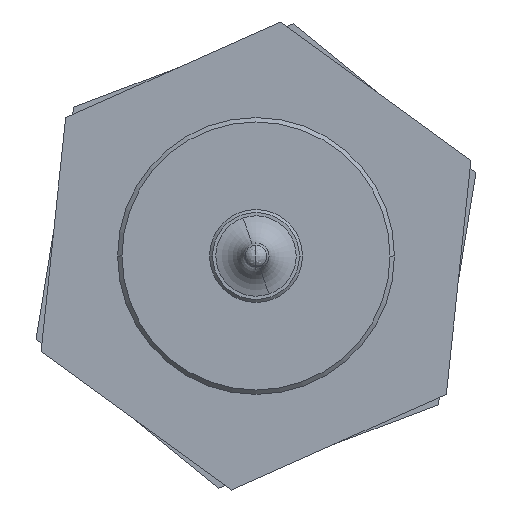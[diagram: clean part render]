
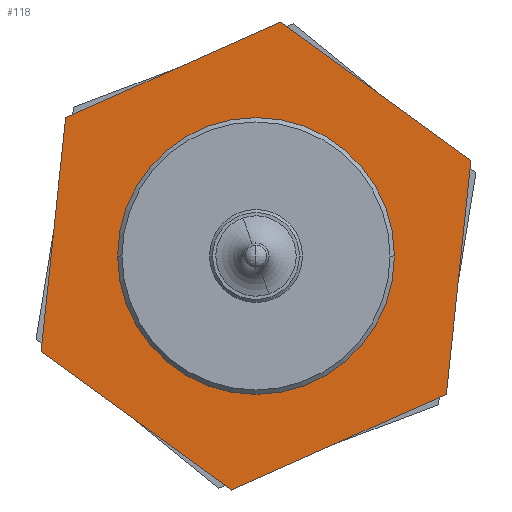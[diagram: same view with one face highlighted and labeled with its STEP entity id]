
A CAD part, left-side view. The second image highlights one B-rep face of the part: STEP entity #118.
In plain terms, the highlighted planar face has unit normal (-1, 0, 0).
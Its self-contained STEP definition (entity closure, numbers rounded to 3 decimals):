
#118=ADVANCED_FACE('',(#261,#262),#263,.F.);
#261=FACE_OUTER_BOUND('',#479,.T.);
#262=FACE_BOUND('',#480,.T.);
#263=PLANE('',#481);
#479=EDGE_LOOP('',(#914,#915,#916,#917,#918,#919));
#480=EDGE_LOOP('',(#920,#921));
#481=AXIS2_PLACEMENT_3D('',#922,#923,#924);
#914=ORIENTED_EDGE('',*,*,#1480,.T.);
#915=ORIENTED_EDGE('',*,*,#1481,.T.);
#916=ORIENTED_EDGE('',*,*,#1482,.T.);
#917=ORIENTED_EDGE('',*,*,#1483,.T.);
#918=ORIENTED_EDGE('',*,*,#1484,.T.);
#919=ORIENTED_EDGE('',*,*,#1485,.T.);
#920=ORIENTED_EDGE('',*,*,#1486,.F.);
#921=ORIENTED_EDGE('',*,*,#1364,.F.);
#922=CARTESIAN_POINT('',(170.8,0.,0.));
#923=DIRECTION('',(1.0,0.0,0.0));
#924=DIRECTION('',(0.0,1.0,0.0));
#1364=EDGE_CURVE('',#1627,#1629,#1630,.T.);
#1480=EDGE_CURVE('',#1837,#1838,#1839,.T.);
#1481=EDGE_CURVE('',#1838,#1840,#1841,.T.);
#1482=EDGE_CURVE('',#1840,#1842,#1843,.T.);
#1483=EDGE_CURVE('',#1842,#1844,#1845,.T.);
#1484=EDGE_CURVE('',#1844,#1846,#1847,.T.);
#1485=EDGE_CURVE('',#1846,#1837,#1848,.T.);
#1486=EDGE_CURVE('',#1629,#1627,#1849,.T.);
#1627=VERTEX_POINT('',#1987);
#1629=VERTEX_POINT('',#1990);
#1630=CIRCLE('',#1991,9.475);
#1837=VERTEX_POINT('',#2285);
#1838=VERTEX_POINT('',#2286);
#1839=LINE('',#2287,#2288);
#1840=VERTEX_POINT('',#2289);
#1841=LINE('',#2290,#2291);
#1842=VERTEX_POINT('',#2292);
#1843=LINE('',#2293,#2294);
#1844=VERTEX_POINT('',#2295);
#1845=LINE('',#2296,#2297);
#1846=VERTEX_POINT('',#2298);
#1847=LINE('',#2299,#2300);
#1848=LINE('',#2301,#2302);
#1849=CIRCLE('',#2303,9.475);
#1987=CARTESIAN_POINT('',(170.8,-9.475,0.));
#1990=CARTESIAN_POINT('',(170.8,9.475,0.));
#1991=AXIS2_PLACEMENT_3D('',#2482,#2483,#2484);
#2285=CARTESIAN_POINT('',(170.8,-1.683,16.02));
#2286=CARTESIAN_POINT('',(170.8,13.032,9.468));
#2287=CARTESIAN_POINT('',(170.8,-1.683,16.02));
#2288=VECTOR('',#2701,16.108);
#2289=CARTESIAN_POINT('',(170.8,14.715,-6.552));
#2290=CARTESIAN_POINT('',(170.8,13.032,9.468));
#2291=VECTOR('',#2702,16.108);
#2292=CARTESIAN_POINT('',(170.8,1.683,-16.02));
#2293=CARTESIAN_POINT('',(170.8,14.715,-6.552));
#2294=VECTOR('',#2703,16.108);
#2295=CARTESIAN_POINT('',(170.8,-13.032,-9.468));
#2296=CARTESIAN_POINT('',(170.8,1.683,-16.02));
#2297=VECTOR('',#2704,16.108);
#2298=CARTESIAN_POINT('',(170.8,-14.715,6.552));
#2299=CARTESIAN_POINT('',(170.8,-13.032,-9.468));
#2300=VECTOR('',#2705,16.108);
#2301=CARTESIAN_POINT('',(170.8,-14.715,6.552));
#2302=VECTOR('',#2706,16.108);
#2303=AXIS2_PLACEMENT_3D('',#2707,#2708,#2709);
#2482=CARTESIAN_POINT('',(170.8,0.,0.0));
#2483=DIRECTION('',(-1.0,0.0,0.0));
#2484=DIRECTION('',(0.0,-1.0,0.0));
#2701=DIRECTION('',(0.0,0.914,-0.407));
#2702=DIRECTION('',(0.0,0.105,-0.995));
#2703=DIRECTION('',(0.0,-0.809,-0.588));
#2704=DIRECTION('',(0.0,-0.914,0.407));
#2705=DIRECTION('',(0.0,-0.105,0.995));
#2706=DIRECTION('',(0.0,0.809,0.588));
#2707=CARTESIAN_POINT('',(170.8,0.,0.0));
#2708=DIRECTION('',(-1.0,0.0,0.0));
#2709=DIRECTION('',(0.0,-1.0,0.0));
